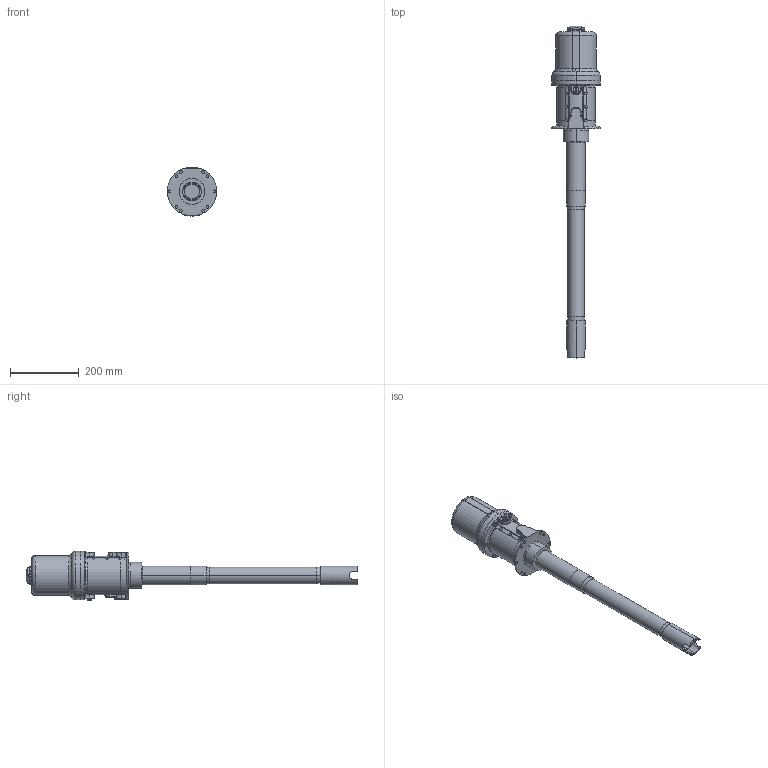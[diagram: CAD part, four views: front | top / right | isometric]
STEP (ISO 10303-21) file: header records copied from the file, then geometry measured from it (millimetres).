
FILE_DESCRIPTION((''),'2;1');
FILE_NAME('203872-EN-ZAK_PRT','2024-03-22T09:56:20',('qtmwp1'),(''),'CREO PARAMETRIC BY PTC INC, 2023424','CREO PARAMETRIC BY PTC INC, 2023424','');
FILE_SCHEMA(('CONFIG_CONTROL_DESIGN'));
Length unit declared in the file: inch
Products named in the file (1): 203872-EN-ZAK_PRT
Bounding box: 143.82 x 967.73 x 144.7 mm (x, y, z)
Surface area: 297115.7 mm2 (no closed solid volume)
Topology: 0 solids, 42 shells, 297 faces, 992 edges, 689 vertices
Faces by surface type: cylinder 105, plane 88, cone 46, bspline 36, torus 22
Entity records: 14047 total; most frequent: CARTESIAN_POINT 6267, ORIENTED_EDGE 1502, DIRECTION 1488, EDGE_CURVE 992, VERTEX_POINT 689, AXIS2_PLACEMENT_3D 598, B_SPLINE_CURVE_WITH_KNOTS 363, CIRCLE 337
